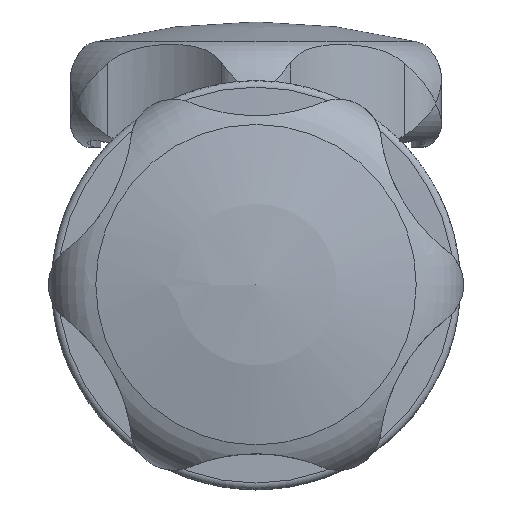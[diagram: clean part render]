
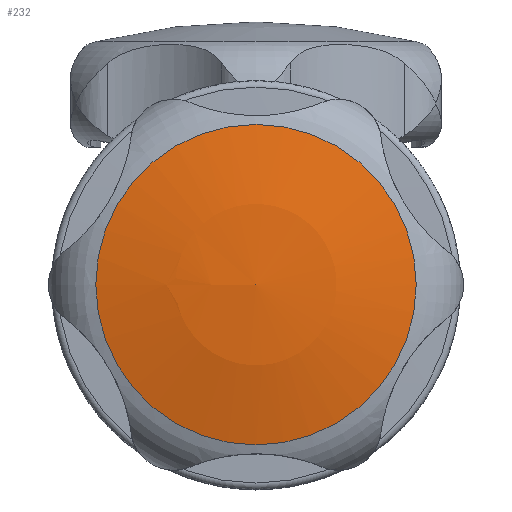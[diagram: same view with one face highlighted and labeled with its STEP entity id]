
A CAD part, top view. The second image highlights one B-rep face of the part: STEP entity #232.
In plain terms, the highlighted spherical face has radius 100 mm.
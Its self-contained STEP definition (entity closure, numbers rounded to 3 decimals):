
#232 = ADVANCED_FACE( '', ( #636 ), #637, .T. );
#636 = FACE_OUTER_BOUND( '', #1457, .T. );
#637 = SPHERICAL_SURFACE( '', #1458, 100. );
#1457 = EDGE_LOOP( '', ( #2324 ) );
#1458 = AXIS2_PLACEMENT_3D( '', #2325, #2326, #2327 );
#2324 = ORIENTED_EDGE( '', *, *, #5682, .T. );
#2325 = CARTESIAN_POINT( '', ( 0., -60., 0. ) );
#2326 = DIRECTION( '', ( 0., 1., 0. ) );
#2327 = DIRECTION( '', ( 0., 0., 1. ) );
#5682 = EDGE_CURVE( '', #6808, #6808, #6809, .T. );
#6808 = VERTEX_POINT( '', #8688 );
#6809 = CIRCLE( '', #8689, 24.309 );
#8688 = CARTESIAN_POINT( '', ( -24.309, 37., 0. ) );
#8689 = AXIS2_PLACEMENT_3D( '', #14648, #14649, #14650 );
#14648 = CARTESIAN_POINT( '', ( 0., 37., 0. ) );
#14649 = DIRECTION( '', ( 0., 1., 0. ) );
#14650 = DIRECTION( '', ( -1., 0., 0. ) );
